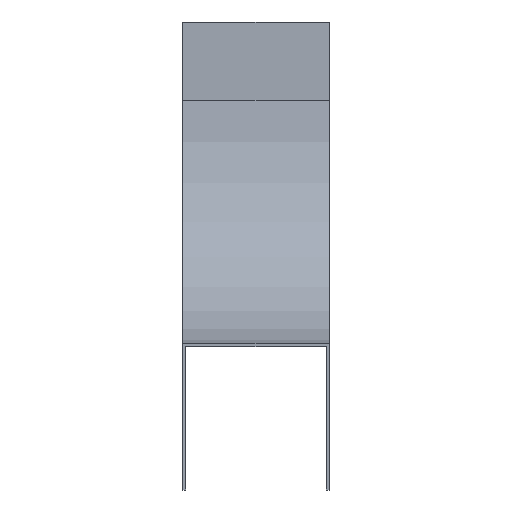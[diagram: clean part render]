
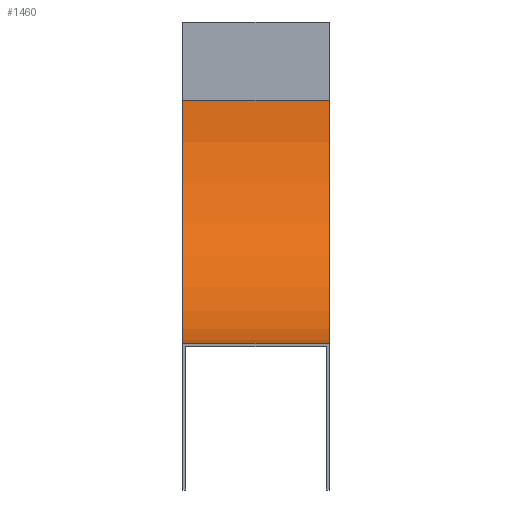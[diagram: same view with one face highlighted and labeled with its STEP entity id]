
A CAD part, front view. The second image highlights one B-rep face of the part: STEP entity #1460.
In plain terms, the highlighted cylindrical face has radius 125 mm (diameter 250 mm), a partial arc.
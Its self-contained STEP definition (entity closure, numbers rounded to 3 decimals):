
#11 = CARTESIAN_POINT ( 'NONE',  ( 37.5, 0., -40. ) ) ;
#45 = CARTESIAN_POINT ( 'NONE',  ( -37.5, -125., -165. ) ) ;
#53 = FACE_OUTER_BOUND ( 'NONE', #146, .T. ) ;
#94 = LINE ( 'NONE', #337, #643 ) ;
#95 = ORIENTED_EDGE ( 'NONE', *, *, #1069, .T. ) ;
#146 = EDGE_LOOP ( 'NONE', ( #225, #1663, #1326, #95 ) ) ;
#199 = DIRECTION ( 'NONE',  ( 0., 0., 1. ) ) ;
#214 = DIRECTION ( 'NONE',  ( 0., 0., 1. ) ) ;
#225 = ORIENTED_EDGE ( 'NONE', *, *, #1413, .T. ) ;
#320 = CYLINDRICAL_SURFACE ( 'NONE', #472, 125. ) ;
#337 = CARTESIAN_POINT ( 'NONE',  ( 37.5, 0., -40. ) ) ;
#372 = AXIS2_PLACEMENT_3D ( 'NONE', #477, #566, #199 ) ;
#376 = CIRCLE ( 'NONE', #1502, 125. ) ;
#415 = LINE ( 'NONE', #934, #448 ) ;
#448 = VECTOR ( 'NONE', #1446, 1000. ) ;
#461 = DIRECTION ( 'NONE',  ( -1., 0., 0. ) ) ;
#472 = AXIS2_PLACEMENT_3D ( 'NONE', #853, #1610, #702 ) ;
#477 = CARTESIAN_POINT ( 'NONE',  ( 37.5, -125., -40. ) ) ;
#513 = EDGE_CURVE ( 'NONE', #637, #739, #1024, .T. ) ;
#566 = DIRECTION ( 'NONE',  ( -1., 0., 0. ) ) ;
#637 = VERTEX_POINT ( 'NONE', #11 ) ;
#643 = VECTOR ( 'NONE', #461, 1000. ) ;
#679 = CARTESIAN_POINT ( 'NONE',  ( 37.5, -125., -165. ) ) ;
#702 = DIRECTION ( 'NONE',  ( 0., 0., 1. ) ) ;
#739 = VERTEX_POINT ( 'NONE', #679 ) ;
#853 = CARTESIAN_POINT ( 'NONE',  ( 37.5, -125., -40. ) ) ;
#919 = VERTEX_POINT ( 'NONE', #45 ) ;
#934 = CARTESIAN_POINT ( 'NONE',  ( 37.5, -125., -165. ) ) ;
#1024 = CIRCLE ( 'NONE', #372, 125. ) ;
#1069 = EDGE_CURVE ( 'NONE', #637, #1348, #94, .T. ) ;
#1086 = DIRECTION ( 'NONE',  ( -1., 0., 0. ) ) ;
#1181 = CARTESIAN_POINT ( 'NONE',  ( -37.5, 0., -40. ) ) ;
#1217 = CARTESIAN_POINT ( 'NONE',  ( -37.5, -125., -40. ) ) ;
#1326 = ORIENTED_EDGE ( 'NONE', *, *, #513, .F. ) ;
#1348 = VERTEX_POINT ( 'NONE', #1181 ) ;
#1363 = EDGE_CURVE ( 'NONE', #739, #919, #415, .T. ) ;
#1413 = EDGE_CURVE ( 'NONE', #1348, #919, #376, .T. ) ;
#1446 = DIRECTION ( 'NONE',  ( -1., 0., 0. ) ) ;
#1460 = ADVANCED_FACE ( 'NONE', ( #53 ), #320, .F. ) ;
#1502 = AXIS2_PLACEMENT_3D ( 'NONE', #1217, #1086, #214 ) ;
#1610 = DIRECTION ( 'NONE',  ( -1., 0., 0. ) ) ;
#1663 = ORIENTED_EDGE ( 'NONE', *, *, #1363, .F. ) ;
